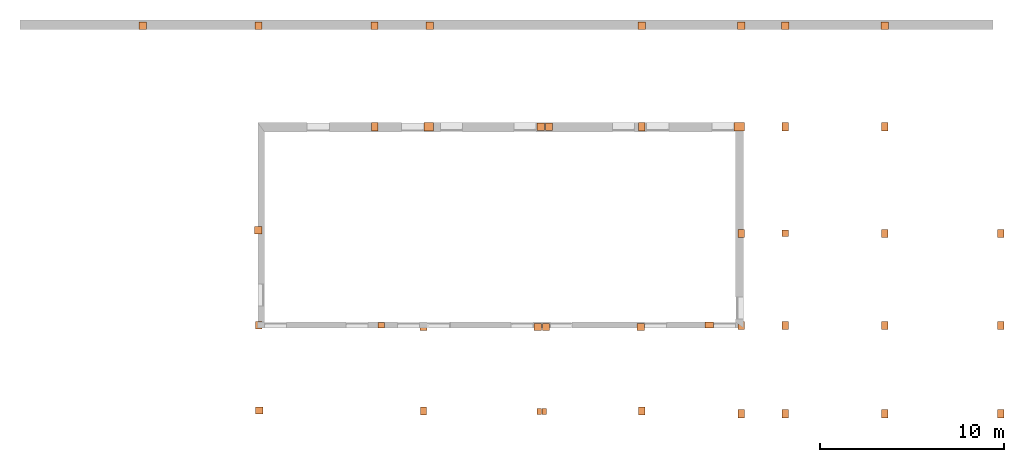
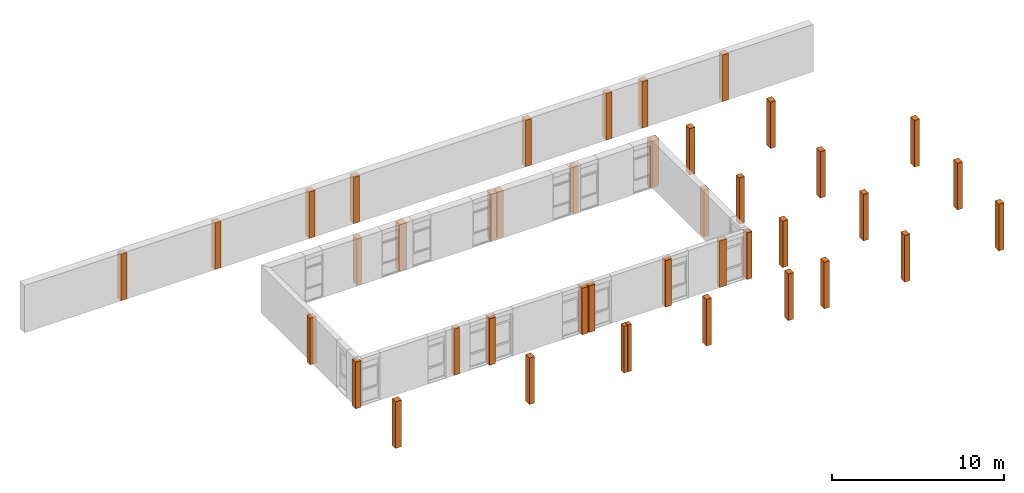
# One storey, part 11 of 11: 41 proxies.
"""IFC2X3 building model written with IfcOpenShell, lengths in millimetres."""

from ifc_helpers import new_model, entity, si_unit, converted_unit, derived_unit, money_unit, direction, frame, origin_with_axes, origin_2d_with_axis, place, context, subcontext, project, spatial, rectangle, extrude, material, type_object, element, save


model = new_model("IFC2X3")

# Units and contexts
model_context = context("Model", 3, precision=0.01, world=origin_with_axes(), true_north=direction((0.0, 1.0)))
body_context = subcontext(model_context, "Body", "Model", "MODEL_VIEW")
ifc_project = project(units=[si_unit("LENGTHUNIT", "METRE", prefix="MILLI"), si_unit("AREAUNIT", "SQUARE_METRE"), si_unit("VOLUMEUNIT", "CUBIC_METRE"), converted_unit("PLANEANGLEUNIT", "DEGREE", entity("IfcPlaneAngleMeasure", 0.0174532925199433), si_unit("PLANEANGLEUNIT", "RADIAN"), dimensions=[0, 0, 0, 0, 0, 0, 0]), money_unit("USD"), converted_unit("TIMEUNIT", "Year", entity("IfcTimeMeasure", 31557600.0), si_unit("TIMEUNIT", "SECOND"), dimensions=[0, 0, 1, 0, 0, 0, 0]), si_unit("MASSUNIT", "GRAM", prefix="KILO"), si_unit("THERMODYNAMICTEMPERATUREUNIT", "DEGREE_CELSIUS"), si_unit("LUMINOUSINTENSITYUNIT", "LUMEN"), si_unit("ENERGYUNIT", "JOULE", prefix="MEGA"), derived_unit("THERMALCONDUCTANCEUNIT", [(si_unit("POWERUNIT", "WATT"), 1), (si_unit("LENGTHUNIT", "METRE"), -1), (si_unit("THERMODYNAMICTEMPERATUREUNIT", "KELVIN"), -1)]), derived_unit("SPECIFICHEATCAPACITYUNIT", [(si_unit("ENERGYUNIT", "JOULE"), 1), (si_unit("MASSUNIT", "GRAM", prefix="KILO"), -1), (si_unit("THERMODYNAMICTEMPERATUREUNIT", "KELVIN"), -1)]), derived_unit("MASSDENSITYUNIT", [(si_unit("MASSUNIT", "GRAM", prefix="KILO"), 1), (si_unit("VOLUMEUNIT", "CUBIC_METRE"), -1)])], contexts=[model_context])

# Site, building, storey
site_placement = place(None, origin_with_axes())
site = spatial("IfcSite", under=ifc_project, at=site_placement, Name="Sitio", CompositionType="ELEMENT")
building_placement = place(site_placement, origin_with_axes())
building = spatial("IfcBuilding", under=site, at=building_placement, Name="Construcción", CompositionType="ELEMENT")
storey_placement = place(building_placement, frame((0.0, 0.0, -3650.0), z_axis=(0.0, 0.0, 1.0), x_axis=(1.0, 0.0, 0.0)))
storey = spatial("IfcBuildingStorey", under=building, at=storey_placement, Name="-1. Piso", CompositionType="ELEMENT", Elevation=-3650.0)

# Proxies
ifc_material = material(Name="ARQ_GN002_Generic Estructural")
building_element_proxy_type_1 = type_object("IfcBuildingElementProxyType", Name="ARQ_GN002_Generic Estructural 400 x 400", PredefinedType="NOTDEFINED")
proxy_1_placement = place(storey_placement, frame((-27967.89518992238, -16833.97642450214, 0.0), z_axis=(0.0, 0.0, 1.0), x_axis=(1.0, 0.0, 0.0)))
element("IfcBuildingElementProxy", 1, at=proxy_1_placement, inside=storey, type_object=building_element_proxy_type_1, material=ifc_material, Name="CRE - 005", context=body_context, shape_type="SweptSolid", body=[
    extrude(rectangle(XDim=400.0019838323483, YDim=400.0012015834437, at=origin_2d_with_axis()), origin_with_axes(), (0.0, 0.0, 1.0), 3300.0),
])
for number, where, z_axis, x_axis, name in (
    (2, (-12235.86058110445, -1413.975222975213, 0.0), (0.0, 0.0, 1.0), (1.0, 0.0, 0.0), "CRE - 005"),
    (3, (-12686.81040057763, -1413.975222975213, 0.0), (0.0, 0.0, 1.0), (1.0, 0.0, 0.0), "CRE - 005"),
):
    element("IfcBuildingElementProxy", number, at=place(storey_placement, frame(where, z_axis=z_axis, x_axis=x_axis)), inside=storey, type_object=building_element_proxy_type_1, material=ifc_material, Name=name, context=body_context, shape_type="SweptSolid", body=[
        extrude(rectangle(XDim=400.0019841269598, YDim=400.001201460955, at=origin_2d_with_axis()), origin_with_axes(), (0.0, 0.0, 1.0), 3300.0),
    ])
for number, where, z_axis, x_axis, name in (
    (4, (-12848.36846045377, -12294.56065474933, 0.0), (0.0, 0.0, 1.0), (1.0, 0.0, 0.0), "CRE - 005"),
    (5, (-19050.39355072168, -12294.56065474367, 0.0), (0.0, 0.0, 1.0), (1.0, 0.0, 0.0), "CRE - 005"),
    (6, (-7250.39355072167, -12294.56065474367, 0.0), (0.0, 0.0, 1.0), (1.0, 0.0, 0.0), "CRE - 005"),
    (7, (-12397.41864098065, -12294.56065474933, 0.0), (0.0, 0.0, 1.0), (1.0, 0.0, 0.0), "CRE - 005"),
):
    element("IfcBuildingElementProxy", number, at=place(storey_placement, frame(where, z_axis=z_axis, x_axis=x_axis)), inside=storey, type_object=building_element_proxy_type_1, material=ifc_material, Name=name, context=body_context, shape_type="SweptSolid", body=[
        extrude(rectangle(XDim=400.0012945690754, YDim=400.000000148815, at=origin_2d_with_axis()), origin_with_axes(), (0.0, 0.0, 1.0), 3300.0),
    ])
building_element_proxy_type_2 = type_object("IfcBuildingElementProxyType", Name="ARQ_GN002_Generic Estructural 350 x 450", PredefinedType="NOTDEFINED")
proxy_2_placement = place(storey_placement, frame((12303.89104937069, -17013.97565867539, 0.0), z_axis=(0.0, 0.0, 1.0), x_axis=(1.0, 0.0, 0.0)))
element("IfcBuildingElementProxy", 8, at=proxy_2_placement, inside=storey, type_object=building_element_proxy_type_2, material=ifc_material, Name="CRE - 005", context=body_context, shape_type="SweptSolid", body=[
    extrude(rectangle(XDim=350.0000034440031, YDim=450.0000006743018, at=origin_2d_with_axis()), origin_with_axes(), (0.0, 0.0, 1.0), 3300.0),
])
proxy_3_placement = place(storey_placement, frame((12303.89102136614, -12213.97574135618, 0.0), z_axis=(0.0, 0.0, 1.0), x_axis=(1.0, 0.0, 0.0)))
element("IfcBuildingElementProxy", 9, at=proxy_3_placement, inside=storey, type_object=building_element_proxy_type_2, material=ifc_material, Name="CRE - 005", context=body_context, shape_type="SweptSolid", body=[
    extrude(rectangle(XDim=350.0000525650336, YDim=450.00016468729, at=origin_2d_with_axis()), origin_with_axes(), (0.0, 0.0, 1.0), 3300.0),
])
proxy_4_placement = place(storey_placement, frame((603.8910493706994, -17013.97565867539, 0.0), z_axis=(0.0, 0.0, 1.0), x_axis=(1.0, 0.0, 0.0)))
element("IfcBuildingElementProxy", 10, at=proxy_4_placement, inside=storey, type_object=building_element_proxy_type_2, material=ifc_material, Name="CRE - 005", context=body_context, shape_type="SweptSolid", body=[
    extrude(rectangle(XDim=350.0000034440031, YDim=450.0000006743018, at=origin_2d_with_axis()), origin_with_axes(), (0.0, 0.0, 1.0), 3300.0),
])
proxy_5_placement = place(storey_placement, frame((12303.89102136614, -7213.97574135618, 0.0), z_axis=(0.0, 0.0, 1.0), x_axis=(1.0, 0.0, 0.0)))
element("IfcBuildingElementProxy", 11, at=proxy_5_placement, inside=storey, type_object=building_element_proxy_type_2, material=ifc_material, Name="CRE - 005", context=body_context, shape_type="SweptSolid", body=[
    extrude(rectangle(XDim=350.0000525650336, YDim=450.00016468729, at=origin_2d_with_axis()), origin_with_axes(), (0.0, 0.0, 1.0), 3300.0),
])
proxy_6_placement = place(storey_placement, frame((6003.891049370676, -17013.97565867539, 0.0), z_axis=(0.0, 0.0, 1.0), x_axis=(1.0, 0.0, 0.0)))
element("IfcBuildingElementProxy", 12, at=proxy_6_placement, inside=storey, type_object=building_element_proxy_type_2, material=ifc_material, Name="CRE - 005", context=body_context, shape_type="SweptSolid", body=[
    extrude(rectangle(XDim=350.0000034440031, YDim=450.0000006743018, at=origin_2d_with_axis()), origin_with_axes(), (0.0, 0.0, 1.0), 3300.0),
])
proxy_7_placement = place(storey_placement, frame((-1796.108978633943, -7213.975648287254, 0.0), z_axis=(0.0, 0.0, 1.0), x_axis=(1.0, 0.0, 0.0)))
element("IfcBuildingElementProxy", 13, at=proxy_7_placement, inside=storey, type_object=building_element_proxy_type_2, material=ifc_material, Name="CRE - 005", context=body_context, shape_type="SweptSolid", body=[
    extrude(rectangle(XDim=350.0000525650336, YDim=450.0020821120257, at=origin_2d_with_axis()), origin_with_axes(), (0.0, 0.0, 1.0), 3300.0),
])
proxy_8_placement = place(storey_placement, frame((-1796.109003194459, -17013.97582305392, 0.0), z_axis=(0.0, 0.0, 1.0), x_axis=(1.0, 0.0, 0.0)))
element("IfcBuildingElementProxy", 14, at=proxy_8_placement, inside=storey, type_object=building_element_proxy_type_2, material=ifc_material, Name="CRE - 005", context=body_context, shape_type="SweptSolid", body=[
    extrude(rectangle(XDim=350.0000034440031, YDim=450.0000012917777, at=origin_2d_with_axis()), origin_with_axes(), (0.0, 0.0, 1.0), 3300.0),
])
proxy_9_placement = place(storey_placement, frame((-7192.894196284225, -16858.97582404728, 0.0), z_axis=(0.0, 0.0, 1.0), x_axis=(1.0, 0.0, 0.0)))
element("IfcBuildingElementProxy", 15, at=proxy_9_placement, inside=storey, type_object=building_element_proxy_type_2, material=ifc_material, Name="CRE - 005", context=body_context, shape_type="SweptSolid", body=[
    extrude(rectangle(XDim=350.0000034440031, YDim=450.0000006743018, at=origin_2d_with_axis()), origin_with_axes(), (0.0, 0.0, 1.0), 3300.0),
])
proxy_10_placement = place(storey_placement, frame((-19050.39332986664, -16858.97514788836, 0.0), z_axis=(0.0, 0.0, 1.0), x_axis=(1.0, 0.0, 0.0)))
element("IfcBuildingElementProxy", 16, at=proxy_10_placement, inside=storey, type_object=building_element_proxy_type_2, material=ifc_material, Name="CRE - 005", context=body_context, shape_type="SweptSolid", body=[
    extrude(rectangle(XDim=350.0017362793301, YDim=450.0013516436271, at=origin_2d_with_axis()), origin_with_axes(), (0.0, 0.0, 1.0), 3300.0),
])
for number, where, z_axis, x_axis, name in (
    (17, (6003.891021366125, -1413.975741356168, 0.0), (0.0, 0.0, 1.0), (1.0, 0.0, 0.0), "CRE - 005"),
    (18, (603.891021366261, -1413.975741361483, 0.0), (0.0, 0.0, 1.0), (1.0, 0.0, 0.0), "CRE - 005"),
    (19, (6003.891021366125, -7213.975741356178, 0.0), (0.0, 0.0, 1.0), (1.0, 0.0, 0.0), "CRE - 005"),
    (20, (6003.891021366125, -12213.97574135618, 0.0), (0.0, 0.0, 1.0), (1.0, 0.0, 0.0), "CRE - 005"),
    (21, (603.8910213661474, -12213.97574135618, 0.0), (0.0, 0.0, 1.0), (1.0, 0.0, 0.0), "CRE - 005"),
):
    element("IfcBuildingElementProxy", number, at=place(storey_placement, frame(where, z_axis=z_axis, x_axis=x_axis)), inside=storey, type_object=building_element_proxy_type_2, material=ifc_material, Name=name, context=body_context, shape_type="SweptSolid", body=[
        extrude(rectangle(XDim=350.0000525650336, YDim=450.00016468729, at=origin_2d_with_axis()), origin_with_axes(), (0.0, 0.0, 1.0), 3300.0),
    ])
building_element_proxy_type_3 = type_object("IfcBuildingElementProxyType", Name="ARQ_GN002_Generic Estructural 250 x 345", PredefinedType="NOTDEFINED")
for number, where, z_axis, x_axis, name in (
    (22, (-12487.19180904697, -16886.47582396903, 0.0), (0.0, 0.0, 1.0), (1.0, 0.0, 0.0), "CRE - 005"),
    (23, (-12758.5965845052, -16886.47582345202, 0.0), (0.0, 0.0, 1.0), (1.0, 0.0, 0.0), "CRE - 005"),
):
    element("IfcBuildingElementProxy", number, at=place(storey_placement, frame(where, z_axis=z_axis, x_axis=x_axis)), inside=storey, type_object=building_element_proxy_type_3, material=ifc_material, Name=name, context=body_context, shape_type="SweptSolid", body=[
        extrude(rectangle(XDim=250.0000024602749, YDim=345.0000005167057, at=origin_2d_with_axis()), origin_with_axes(), (0.0, 0.0, 1.0), 3300.0),
    ])
building_element_proxy_type_4 = type_object("IfcBuildingElementProxyType", Name="ARQ_GN002_Generic Estructural 400 x 405", PredefinedType="NOTDEFINED")
for number, where, z_axis, x_axis, name in (
    (24, (599.5319299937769, 4065.732157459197, 0.0), (0.0, 0.0, 1.0), (1.0, 0.0, 0.0), "CRE - 005"),
    (25, (-1800.4680700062, 4065.732157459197, 0.0), (0.0, 0.0, 1.0), (1.0, 0.0, 0.0), "CRE - 005"),
    (26, (-7200.467796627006, 4065.732157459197, 0.0), (0.0, 0.0, 1.0), (1.0, 0.0, 0.0), "CRE - 005"),
    (27, (-21709.76540890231, 4065.732157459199, 0.0), (0.0, 0.0, 1.0), (1.0, 0.0, 0.0), "CRE - 005"),
    (28, (-18709.76540890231, 4065.732157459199, 0.0), (0.0, 0.0, 1.0), (1.0, 0.0, 0.0), "CRE - 005"),
    (29, (-28009.76540890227, 4065.7321574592, 0.0), (0.0, 0.0, 1.0), (1.0, 0.0, 0.0), "CRE - 005"),
    (30, (-34309.76540890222, 4065.732157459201, 0.0), (0.0, 0.0, 1.0), (1.0, 0.0, 0.0), "CRE - 005"),
    (31, (5999.531992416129, 4065.732157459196, 0.0), (0.0, 0.0, 1.0), (1.0, 0.0, 0.0), "CRE - 005"),
):
    element("IfcBuildingElementProxy", number, at=place(storey_placement, frame(where, z_axis=z_axis, x_axis=x_axis)), inside=storey, type_object=building_element_proxy_type_4, material=ifc_material, Name=name, context=body_context, shape_type="SweptSolid", body=[
        extrude(rectangle(XDim=400.0002733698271, YDim=404.557563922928, at=origin_2d_with_axis()), origin_with_axes(), (0.0, 0.0, 1.0), 3300.0),
    ])
building_element_proxy_type_5 = type_object("IfcBuildingElementProxyType", Name="ARQ_GN002_Generic Estructural 562 x 445", PredefinedType="NOTDEFINED")
proxy_11_placement = place(storey_placement, frame((-1902.270180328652, -1416.475823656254, 0.0), z_axis=(0.0, 0.0, 1.0), x_axis=(1.0, 0.0, 0.0)))
element("IfcBuildingElementProxy", 32, at=proxy_11_placement, inside=storey, type_object=building_element_proxy_type_5, material=ifc_material, Name="CRE - 005", context=body_context, shape_type="SweptSolid", body=[
    extrude(rectangle(XDim=562.3223509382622, YDim=445.0000001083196, at=origin_2d_with_axis()), origin_with_axes(), (0.0, 0.0, 1.0), 3300.0),
])
building_element_proxy_type_6 = type_object("IfcBuildingElementProxyType", Name="ARQ_GN002_Generic Estructural 350 x 445", PredefinedType="NOTDEFINED")
proxy_12_placement = place(storey_placement, frame((-7196.108136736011, -1416.475375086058, 0.0), z_axis=(0.0, 0.0, 1.0), x_axis=(1.0, 0.0, 0.0)))
element("IfcBuildingElementProxy", 33, at=proxy_12_placement, inside=storey, type_object=building_element_proxy_type_6, material=ifc_material, Name="CRE - 005", context=body_context, shape_type="SweptSolid", body=[
    extrude(rectangle(XDim=350.0017363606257, YDim=445.0008972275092, at=origin_2d_with_axis()), origin_with_axes(), (0.0, 0.0, 1.0), 3300.0),
])
building_element_proxy_type_7 = type_object("IfcBuildingElementProxyType", Name="ARQ_GN002_Generic Estructural 513 x 445", PredefinedType="NOTDEFINED")
proxy_13_placement = place(storey_placement, frame((-18777.52018058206, -1416.475823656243, 0.0), z_axis=(0.0, 0.0, 1.0), x_axis=(1.0, 0.0, 0.0)))
element("IfcBuildingElementProxy", 34, at=proxy_13_placement, inside=storey, type_object=building_element_proxy_type_7, material=ifc_material, Name="CRE - 005", context=body_context, shape_type="SweptSolid", body=[
    extrude(rectangle(XDim=512.8223513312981, YDim=445.0000001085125, at=origin_2d_with_axis()), origin_with_axes(), (0.0, 0.0, 1.0), 3300.0),
])
building_element_proxy_type_8 = type_object("IfcBuildingElementProxyType", Name="ARQ_GN002_Generic Estructural 353 x 445", PredefinedType="NOTDEFINED")
proxy_14_placement = place(storey_placement, frame((-21694.6205481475, -1416.475375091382, 0.0), z_axis=(0.0, 0.0, 1.0), x_axis=(1.0, 0.0, 0.0)))
element("IfcBuildingElementProxy", 35, at=proxy_14_placement, inside=storey, type_object=building_element_proxy_type_8, material=ifc_material, Name="CRE - 005", context=body_context, shape_type="SweptSolid", body=[
    extrude(rectangle(XDim=352.9769135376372, YDim=445.0008972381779, at=origin_2d_with_axis()), origin_with_axes(), (0.0, 0.0, 1.0), 3300.0),
])
building_element_proxy_type_9 = type_object("IfcBuildingElementProxyType", Name="ARQ_GN002_Generic Estructural 353 x 450", PredefinedType="NOTDEFINED")
proxy_15_placement = place(storey_placement, frame((-1794.501576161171, -12213.97590582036, 0.0), z_axis=(0.0, 0.0, 1.0), x_axis=(1.0, 0.0, 0.0)))
element("IfcBuildingElementProxy", 36, at=proxy_15_placement, inside=storey, type_object=building_element_proxy_type_9, material=ifc_material, Name="CRE - 005", context=body_context, shape_type="SweptSolid", body=[
    extrude(rectangle(XDim=353.2148614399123, YDim=450.0001651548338, at=origin_2d_with_axis()), origin_with_axes(), (0.0, 0.0, 1.0), 3300.0),
])
building_element_proxy_type_10 = type_object("IfcBuildingElementProxyType", Name="ARQ_GN002_Generic Estructural 350 x 360", PredefinedType="NOTDEFINED")
proxy_16_placement = place(storey_placement, frame((603.891021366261, -7213.975823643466, 0.0), z_axis=(0.0, 0.0, 1.0), x_axis=(1.0, 0.0, 0.0)))
element("IfcBuildingElementProxy", 37, at=proxy_16_placement, inside=storey, type_object=building_element_proxy_type_10, material=ifc_material, Name="CRE - 005", context=body_context, shape_type="SweptSolid", body=[
    extrude(rectangle(XDim=350.0000525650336, YDim=360.0000001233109, at=origin_2d_with_axis()), origin_with_axes(), (0.0, 0.0, 1.0), 3300.0),
])
building_element_proxy_type_11 = type_object("IfcBuildingElementProxyType", Name="ARQ_GN002_Generic Estructural 350 x 400", PredefinedType="NOTDEFINED")
proxy_17_placement = place(storey_placement, frame((-27992.89506614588, -12207.00477019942, 0.0), z_axis=(0.0, 0.0, 1.0), x_axis=(1.0, 0.0, 0.0)))
element("IfcBuildingElementProxy", 38, at=proxy_17_placement, inside=storey, type_object=building_element_proxy_type_11, material=ifc_material, Name="CRE - 005", context=body_context, shape_type="SweptSolid", body=[
    extrude(rectangle(XDim=350.0017362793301, YDim=400.000000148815, at=origin_2d_with_axis()), origin_with_axes(), (0.0, 0.0, 1.0), 3300.0),
])
building_element_proxy_type_12 = type_object("IfcBuildingElementProxyType", Name="ARQ_GN002_Generic Estructural 451 x 320", PredefinedType="NOTDEFINED")
proxy_18_placement = place(storey_placement, frame((-3523.39420075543, -12178.97582545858, 0.0), z_axis=(0.0, 0.0, 1.0), x_axis=(1.0, 0.0, 0.0)))
element("IfcBuildingElementProxy", 39, at=proxy_18_placement, inside=storey, type_object=building_element_proxy_type_12, material=ifc_material, Name="CRE - 005", context=body_context, shape_type="SweptSolid", body=[
    extrude(rectangle(XDim=451.0000054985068, YDim=320.0000034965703, at=origin_2d_with_axis()), origin_with_axes(), (0.0, 0.0, 1.0), 3300.0),
])
building_element_proxy_type_13 = type_object("IfcBuildingElementProxyType", Name="ARQ_GN002_Generic Estructural 350 x 299", PredefinedType="NOTDEFINED")
proxy_19_placement = place(storey_placement, frame((-21356.21568074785, -12189.26823963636, 0.0), z_axis=(0.0, 0.0, 1.0), x_axis=(1.0, 0.0, 0.0)))
element("IfcBuildingElementProxy", 40, at=proxy_19_placement, inside=storey, type_object=building_element_proxy_type_13, material=ifc_material, Name="CRE - 005", context=body_context, shape_type="SweptSolid", body=[
    extrude(rectangle(XDim=350.0017362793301, YDim=299.4151699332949, at=origin_2d_with_axis()), origin_with_axes(), (0.0, 0.0, 1.0), 3300.0),
])
building_element_proxy_type_14 = type_object("IfcBuildingElementProxyType", Name="ARQ_GN002_Generic Estructural 410 x 400", PredefinedType="NOTDEFINED")
proxy_20_placement = place(storey_placement, frame((-28023.1106332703, -7033.975823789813, 0.0), z_axis=(0.0, 0.0, 1.0), x_axis=(1.0, 0.0, 0.0)))
element("IfcBuildingElementProxy", 41, at=proxy_20_placement, inside=storey, type_object=building_element_proxy_type_14, material=ifc_material, Name="CRE - 005", context=body_context, shape_type="SweptSolid", body=[
    extrude(rectangle(XDim=410.4363430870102, YDim=400.000000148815, at=origin_2d_with_axis()), origin_with_axes(), (0.0, 0.0, 1.0), 3300.0),
])

save(model, "model.ifc")
